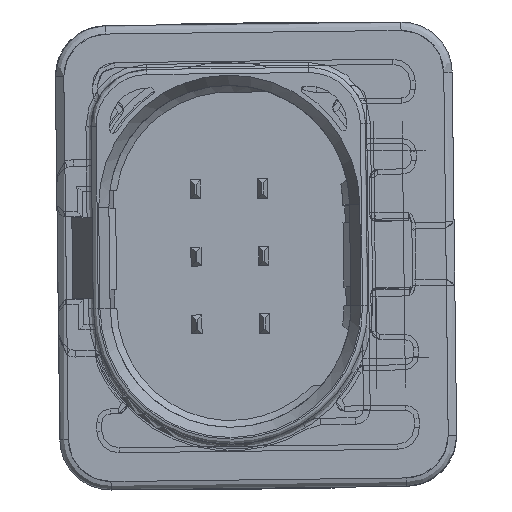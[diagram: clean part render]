
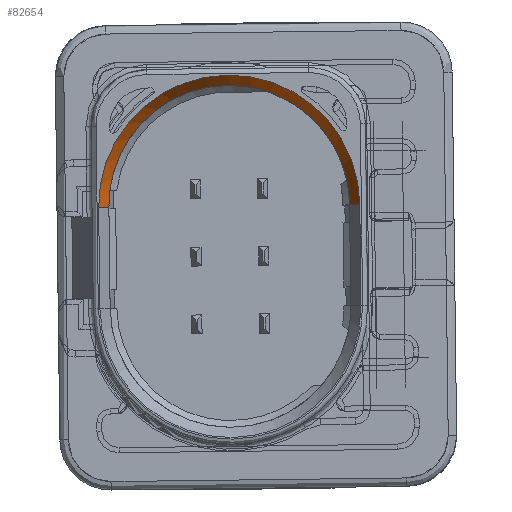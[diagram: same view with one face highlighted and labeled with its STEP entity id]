
A CAD part, left-side view. The second image highlights one B-rep face of the part: STEP entity #82654.
In plain terms, the highlighted conical face has half-angle 30 degrees and reference radius 7.428 mm.
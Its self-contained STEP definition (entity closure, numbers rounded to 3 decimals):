
#82379=AXIS2_PLACEMENT_3D('Circle Axis2P3D',#82377,#82378,$) ;
#82622=AXIS2_PLACEMENT_3D('Cone Axis2P3D',#82619,#82620,#82621) ;
#82374=CARTESIAN_POINT('Vertex',(1000.,-3.,-7.731)) ;
#82377=CARTESIAN_POINT('Axis2P3D Location',(1000.,-3.,0.)) ;
#82381=CARTESIAN_POINT('Vertex',(1000.,-3.,7.731)) ;
#82597=CARTESIAN_POINT('Vertex',(998.95,-3.,-7.125)) ;
#82600=CARTESIAN_POINT('Line Origine',(999.475,-3.,-7.428)) ;
#82619=CARTESIAN_POINT('Axis2P3D Location',(999.475,-3.,0.)) ;
#82625=CARTESIAN_POINT('Control Point',(998.95,-3.,7.125)) ;
#82626=CARTESIAN_POINT('Control Point',(998.95,-4.119,7.125)) ;
#82627=CARTESIAN_POINT('Control Point',(998.95,-5.238,6.905)) ;
#82628=CARTESIAN_POINT('Control Point',(998.95,-6.3,6.466)) ;
#82629=CARTESIAN_POINT('Control Point',(998.95,-8.194,5.194)) ;
#82630=CARTESIAN_POINT('Control Point',(998.95,-9.466,3.3)) ;
#82631=CARTESIAN_POINT('Control Point',(998.95,-9.905,2.238)) ;
#82632=CARTESIAN_POINT('Control Point',(998.95,-10.345,0.)) ;
#82633=CARTESIAN_POINT('Control Point',(998.95,-9.905,-2.238)) ;
#82634=CARTESIAN_POINT('Control Point',(998.95,-9.466,-3.3)) ;
#82635=CARTESIAN_POINT('Control Point',(998.95,-8.194,-5.194)) ;
#82636=CARTESIAN_POINT('Control Point',(998.95,-6.3,-6.466)) ;
#82637=CARTESIAN_POINT('Control Point',(998.95,-5.238,-6.905)) ;
#82638=CARTESIAN_POINT('Control Point',(998.95,-4.119,-7.125)) ;
#82639=CARTESIAN_POINT('Control Point',(998.95,-3.,-7.125)) ;
#82640=CARTESIAN_POINT('Vertex',(998.95,-3.,7.125)) ;
#82643=CARTESIAN_POINT('Line Origine',(434005.707,-3.037,250003.777)) ;
#82378=DIRECTION('Axis2P3D Direction',(1.,0.,0.)) ;
#82601=DIRECTION('Vector Direction',(-0.866,0.,0.5)) ;
#82620=DIRECTION('Axis2P3D Direction',(1.,0.,0.)) ;
#82621=DIRECTION('Axis2P3D XDirection',(0.,0.,1.)) ;
#82644=DIRECTION('Vector Direction',(0.866,0.,0.5)) ;
#82602=VECTOR('Line Direction',#82601,1.) ;
#82645=VECTOR('Line Direction',#82644,1.) ;
#82649=ORIENTED_EDGE('',*,*,#82604,.T.) ;
#82650=ORIENTED_EDGE('',*,*,#82642,.F.) ;
#82651=ORIENTED_EDGE('',*,*,#82647,.F.) ;
#82652=ORIENTED_EDGE('',*,*,#82383,.T.) ;
#82654=ADVANCED_FACE('MANIFOLD_SOLID_BREP #10298',(#82653),#82623,.F.) ;
#82624=B_SPLINE_CURVE_WITH_KNOTS('',5,(#82625,#82626,#82627,#82628,#82629,#82630,#82631,#82632,#82633,#82634,#82635,#82636,#82637,#82638,#82639),.UNSPECIFIED.,.F.,.U.,(6,3,3,3,6),(-157.08,-78.54,0.,78.54,157.08),.UNSPECIFIED.) ;
#82380=CIRCLE('generated circle',#82379,7.731) ;
#82623=CONICAL_SURFACE('Cone',#82622,7.428,0.524) ;
#82383=EDGE_CURVE('',#82382,#82375,#82380,.T.) ;
#82604=EDGE_CURVE('',#82375,#82598,#82603,.T.) ;
#82642=EDGE_CURVE('',#82641,#82598,#82624,.T.) ;
#82647=EDGE_CURVE('',#82382,#82641,#82646,.F.) ;
#82648=EDGE_LOOP('',(#82649,#82650,#82651,#82652)) ;
#82653=FACE_OUTER_BOUND('',#82648,.T.) ;
#82603=LINE('Line',#82600,#82602) ;
#82646=LINE('Line',#82643,#82645) ;
#82375=VERTEX_POINT('',#82374) ;
#82382=VERTEX_POINT('',#82381) ;
#82598=VERTEX_POINT('',#82597) ;
#82641=VERTEX_POINT('',#82640) ;
